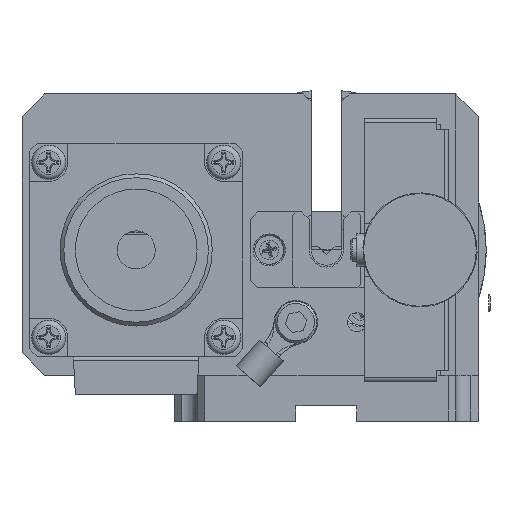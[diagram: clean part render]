
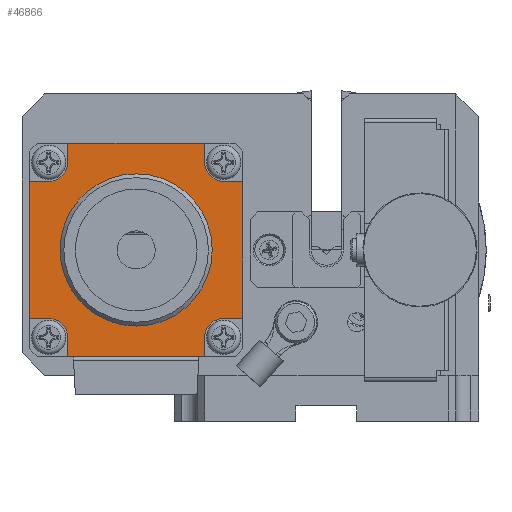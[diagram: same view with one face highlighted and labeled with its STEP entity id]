
A CAD part, left-side view. The second image highlights one B-rep face of the part: STEP entity #46866.
In plain terms, the highlighted planar face has unit normal (-1, 0, 0).
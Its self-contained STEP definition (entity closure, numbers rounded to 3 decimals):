
#2972=FACE_BOUND('',#6967,.T.);
#4237=FACE_OUTER_BOUND('',#6966,.T.);
#6966=EDGE_LOOP('',(#33497,#33498,#33499,#33500,#33501,#33502,#33503,#33504,
#33505,#33506,#33507,#33508,#33509,#33510,#33511,#33512));
#6967=EDGE_LOOP('',(#33513,#33514));
#10200=LINE('',#68558,#14456);
#10204=LINE('',#68570,#14460);
#10211=LINE('',#68587,#14467);
#10215=LINE('',#68599,#14471);
#10222=LINE('',#68616,#14478);
#10226=LINE('',#68628,#14482);
#10234=LINE('',#68645,#14490);
#10236=LINE('',#68649,#14492);
#10237=LINE('',#68653,#14493);
#10238=LINE('',#68654,#14494);
#10239=LINE('',#68655,#14495);
#10240=LINE('',#68656,#14496);
#10241=LINE('',#68660,#14497);
#14456=VECTOR('',#55741,10.);
#14460=VECTOR('',#55753,10.);
#14467=VECTOR('',#55766,10.);
#14471=VECTOR('',#55778,10.);
#14478=VECTOR('',#55791,10.);
#14482=VECTOR('',#55803,10.);
#14490=VECTOR('',#55817,10.);
#14492=VECTOR('',#55821,10.);
#14493=VECTOR('',#55824,10.);
#14494=VECTOR('',#55825,10.);
#14495=VECTOR('',#55826,10.);
#14496=VECTOR('',#55827,10.);
#14497=VECTOR('',#55830,10.);
#18133=CIRCLE('',#49987,2.5);
#18136=CIRCLE('',#49994,2.5);
#18139=CIRCLE('',#50001,2.5);
#18141=CIRCLE('',#50007,2.5);
#18142=CIRCLE('',#50008,2.5);
#20358=VERTEX_POINT('',#68555);
#20359=VERTEX_POINT('',#68557);
#20361=VERTEX_POINT('',#68563);
#20363=VERTEX_POINT('',#68569);
#20369=VERTEX_POINT('',#68584);
#20370=VERTEX_POINT('',#68586);
#20372=VERTEX_POINT('',#68592);
#20374=VERTEX_POINT('',#68598);
#20380=VERTEX_POINT('',#68613);
#20381=VERTEX_POINT('',#68615);
#20383=VERTEX_POINT('',#68621);
#20385=VERTEX_POINT('',#68627);
#20391=VERTEX_POINT('',#68643);
#20392=VERTEX_POINT('',#68648);
#20393=VERTEX_POINT('',#68650);
#20394=VERTEX_POINT('',#68652);
#20395=VERTEX_POINT('',#68657);
#20396=VERTEX_POINT('',#68658);
#25335=EDGE_CURVE('',#20359,#20358,#10200,.T.);
#25338=EDGE_CURVE('',#20361,#20359,#18133,.T.);
#25341=EDGE_CURVE('',#20363,#20361,#10204,.T.);
#25349=EDGE_CURVE('',#20370,#20369,#10211,.T.);
#25352=EDGE_CURVE('',#20372,#20370,#18136,.T.);
#25355=EDGE_CURVE('',#20374,#20372,#10215,.T.);
#25363=EDGE_CURVE('',#20381,#20380,#10222,.T.);
#25366=EDGE_CURVE('',#20383,#20381,#18139,.T.);
#25369=EDGE_CURVE('',#20385,#20383,#10226,.T.);
#25378=EDGE_CURVE('',#20391,#20358,#10234,.T.);
#25380=EDGE_CURVE('',#20391,#20392,#10236,.T.);
#25381=EDGE_CURVE('',#20392,#20393,#18141,.T.);
#25382=EDGE_CURVE('',#20393,#20394,#10237,.T.);
#25383=EDGE_CURVE('',#20385,#20394,#10238,.T.);
#25384=EDGE_CURVE('',#20374,#20380,#10239,.T.);
#25385=EDGE_CURVE('',#20363,#20369,#10240,.T.);
#25386=EDGE_CURVE('',#20395,#20396,#18142,.T.);
#25387=EDGE_CURVE('',#20395,#20396,#10241,.T.);
#33497=ORIENTED_EDGE('',*,*,#25341,.T.);
#33498=ORIENTED_EDGE('',*,*,#25338,.T.);
#33499=ORIENTED_EDGE('',*,*,#25335,.T.);
#33500=ORIENTED_EDGE('',*,*,#25378,.F.);
#33501=ORIENTED_EDGE('',*,*,#25380,.T.);
#33502=ORIENTED_EDGE('',*,*,#25381,.T.);
#33503=ORIENTED_EDGE('',*,*,#25382,.T.);
#33504=ORIENTED_EDGE('',*,*,#25383,.F.);
#33505=ORIENTED_EDGE('',*,*,#25369,.T.);
#33506=ORIENTED_EDGE('',*,*,#25366,.T.);
#33507=ORIENTED_EDGE('',*,*,#25363,.T.);
#33508=ORIENTED_EDGE('',*,*,#25384,.F.);
#33509=ORIENTED_EDGE('',*,*,#25355,.T.);
#33510=ORIENTED_EDGE('',*,*,#25352,.T.);
#33511=ORIENTED_EDGE('',*,*,#25349,.T.);
#33512=ORIENTED_EDGE('',*,*,#25385,.F.);
#33513=ORIENTED_EDGE('',*,*,#25386,.T.);
#33514=ORIENTED_EDGE('',*,*,#25387,.F.);
#45163=PLANE('',#50006);
#46866=ADVANCED_FACE('',(#4237,#2972),#45163,.T.);
#49987=AXIS2_PLACEMENT_3D('',#68564,#55747,#55748);
#49994=AXIS2_PLACEMENT_3D('',#68593,#55772,#55773);
#50001=AXIS2_PLACEMENT_3D('',#68622,#55797,#55798);
#50006=AXIS2_PLACEMENT_3D('',#68647,#55819,#55820);
#50007=AXIS2_PLACEMENT_3D('',#68651,#55822,#55823);
#50008=AXIS2_PLACEMENT_3D('',#68659,#55828,#55829);
#55741=DIRECTION('',(0.,0.,1.));
#55747=DIRECTION('center_axis',(1.,0.,0.));
#55748=DIRECTION('ref_axis',(0.,-1.,0.));
#55753=DIRECTION('',(0.,1.,0.));
#55766=DIRECTION('',(0.,-1.,0.));
#55772=DIRECTION('center_axis',(1.,0.,0.));
#55773=DIRECTION('ref_axis',(0.,0.,
-1.));
#55778=DIRECTION('',(0.,0.,1.));
#55791=DIRECTION('',(0.,0.,-1.));
#55797=DIRECTION('center_axis',(1.,0.,0.));
#55798=DIRECTION('ref_axis',(0.,1.,0.));
#55803=DIRECTION('',(0.,-1.,0.));
#55817=DIRECTION('',(0.,-1.,0.));
#55819=DIRECTION('center_axis',(-1.,0.,0.));
#55820=DIRECTION('ref_axis',(0.,0.,
1.));
#55821=DIRECTION('',(0.,0.,-1.));
#55822=DIRECTION('center_axis',(1.,0.,0.));
#55823=DIRECTION('ref_axis',(0.,0.,
1.));
#55824=DIRECTION('',(0.,1.,0.));
#55825=DIRECTION('',(0.,0.,1.));
#55826=DIRECTION('',(0.,1.,0.));
#55827=DIRECTION('',(0.,0.,-1.));
#55828=DIRECTION('center_axis',(1.,0.,0.));
#55829=DIRECTION('ref_axis',(0.,0.,
-1.));
#55830=DIRECTION('',(0.,1.,0.));
#68555=CARTESIAN_POINT('',(-32.,16.,36.5));
#68557=CARTESIAN_POINT('',(-32.,16.,34.));
#68558=CARTESIAN_POINT('',(-32.,16.,29.5));
#68563=CARTESIAN_POINT('',(-32.,13.5,31.5));
#68564=CARTESIAN_POINT('Origin',(-32.,13.5,34.));
#68569=CARTESIAN_POINT('',(-32.,11.,31.5));
#68570=CARTESIAN_POINT('',(-32.,19.25,31.5));
#68584=CARTESIAN_POINT('',(-32.,11.,13.5));
#68586=CARTESIAN_POINT('',(-32.,13.5,13.5));
#68587=CARTESIAN_POINT('',(-32.,18.,13.5));
#68592=CARTESIAN_POINT('',(-32.,16.,11.));
#68593=CARTESIAN_POINT('Origin',(-32.,13.5,11.));
#68598=CARTESIAN_POINT('',(-32.,16.,8.5));
#68599=CARTESIAN_POINT('',(-32.,16.,16.75));
#68613=CARTESIAN_POINT('',(-32.,34.,8.5));
#68615=CARTESIAN_POINT('',(-32.,34.,11.));
#68616=CARTESIAN_POINT('',(-32.,34.,15.5));
#68621=CARTESIAN_POINT('',(-32.,36.5,13.5));
#68622=CARTESIAN_POINT('Origin',(-32.,36.5,11.));
#68627=CARTESIAN_POINT('',(-32.,39.,13.5));
#68628=CARTESIAN_POINT('',(-32.,30.75,13.5));
#68643=CARTESIAN_POINT('',(-32.,34.,36.5));
#68645=CARTESIAN_POINT('',(-32.,39.,36.5));
#68647=CARTESIAN_POINT('Origin',(-32.,25.,22.5));
#68648=CARTESIAN_POINT('',(-32.,34.,34.));
#68649=CARTESIAN_POINT('',(-32.,34.,28.25));
#68650=CARTESIAN_POINT('',(-32.,36.5,31.5));
#68651=CARTESIAN_POINT('Origin',(-32.,36.5,34.));
#68652=CARTESIAN_POINT('',(-32.,39.,31.5));
#68653=CARTESIAN_POINT('',(-32.,32.,31.5));
#68654=CARTESIAN_POINT('',(-32.,39.,8.5));
#68655=CARTESIAN_POINT('',(-32.,11.,8.5));
#68656=CARTESIAN_POINT('',(-32.,11.,36.5));
#68657=CARTESIAN_POINT('',(-32.,23.5,24.5));
#68658=CARTESIAN_POINT('',(-32.,26.5,24.5));
#68659=CARTESIAN_POINT('Origin',(-32.,25.,22.5));
#68660=CARTESIAN_POINT('',(-32.,25.75,24.5));
